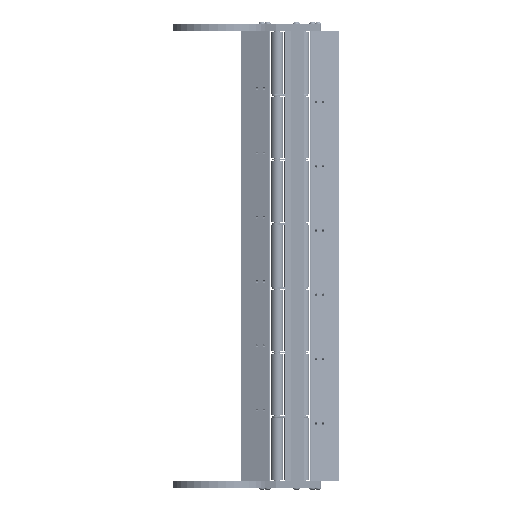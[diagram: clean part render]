
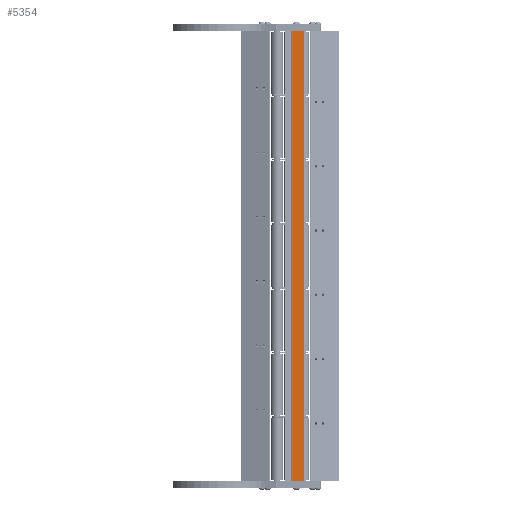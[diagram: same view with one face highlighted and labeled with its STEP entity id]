
A CAD part, front view. The second image highlights one B-rep face of the part: STEP entity #5354.
In plain terms, the highlighted planar face has unit normal (0.768, -0.641, 0) as drawn and (0, 1, 0) by its records, which use the part's own axes.
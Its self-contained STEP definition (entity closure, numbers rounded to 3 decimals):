
#278 = CARTESIAN_POINT ( 'NONE',  ( 25., 13.9, 547. ) ) ;
#1509 = DIRECTION ( 'NONE',  ( 0., 0., -1. ) ) ;
#1575 = DIRECTION ( 'NONE',  ( -1., 0., 0. ) ) ;
#2430 = EDGE_CURVE ( 'NONE', #10388, #10463, #8196, .T. ) ;
#3086 = ORIENTED_EDGE ( 'NONE', *, *, #6786, .F. ) ;
#4798 = VERTEX_POINT ( 'NONE', #6210 ) ;
#5117 = VECTOR ( 'NONE', #5465, 1000. ) ;
#5354 = ADVANCED_FACE ( 'NONE', ( #12068 ), #7776, .F. ) ;
#5411 = AXIS2_PLACEMENT_3D ( 'NONE', #9216, #17529, #16084 ) ;
#5465 = DIRECTION ( 'NONE',  ( -1., 0., 0. ) ) ;
#6210 = CARTESIAN_POINT ( 'NONE',  ( 25., 13.9, 547. ) ) ;
#6786 = EDGE_CURVE ( 'NONE', #17083, #10463, #7029, .T. ) ;
#7029 = LINE ( 'NONE', #11599, #8503 ) ;
#7776 = PLANE ( 'NONE',  #5411 ) ;
#8196 = LINE ( 'NONE', #13952, #5117 ) ;
#8503 = VECTOR ( 'NONE', #8680, 1000. ) ;
#8680 = DIRECTION ( 'NONE',  ( 0., 0., -1. ) ) ;
#9216 = CARTESIAN_POINT ( 'NONE',  ( 25., 13.9, 547. ) ) ;
#9863 = VECTOR ( 'NONE', #1575, 1000. ) ;
#10185 = CARTESIAN_POINT ( 'NONE',  ( 0., 13.9, 547. ) ) ;
#10388 = VERTEX_POINT ( 'NONE', #16018 ) ;
#10463 = VERTEX_POINT ( 'NONE', #17457 ) ;
#11562 = CARTESIAN_POINT ( 'NONE',  ( 25., 13.9, 547. ) ) ;
#11599 = CARTESIAN_POINT ( 'NONE',  ( 0., 13.9, 547. ) ) ;
#12068 = FACE_OUTER_BOUND ( 'NONE', #18389, .T. ) ;
#12418 = ORIENTED_EDGE ( 'NONE', *, *, #2430, .T. ) ;
#12894 = ORIENTED_EDGE ( 'NONE', *, *, #15060, .T. ) ;
#13117 = VECTOR ( 'NONE', #1509, 1000. ) ;
#13405 = ORIENTED_EDGE ( 'NONE', *, *, #17757, .F. ) ;
#13952 = CARTESIAN_POINT ( 'NONE',  ( 25., 13.9, 0. ) ) ;
#14466 = LINE ( 'NONE', #11562, #13117 ) ;
#14801 = LINE ( 'NONE', #278, #9863 ) ;
#15060 = EDGE_CURVE ( 'NONE', #4798, #10388, #14466, .T. ) ;
#16018 = CARTESIAN_POINT ( 'NONE',  ( 25., 13.9, 0. ) ) ;
#16084 = DIRECTION ( 'NONE',  ( 1., 0., 0. ) ) ;
#17083 = VERTEX_POINT ( 'NONE', #10185 ) ;
#17457 = CARTESIAN_POINT ( 'NONE',  ( 0., 13.9, 0. ) ) ;
#17529 = DIRECTION ( 'NONE',  ( 0., -1., 0. ) ) ;
#17757 = EDGE_CURVE ( 'NONE', #4798, #17083, #14801, .T. ) ;
#18389 = EDGE_LOOP ( 'NONE', ( #12418, #3086, #13405, #12894 ) ) ;
